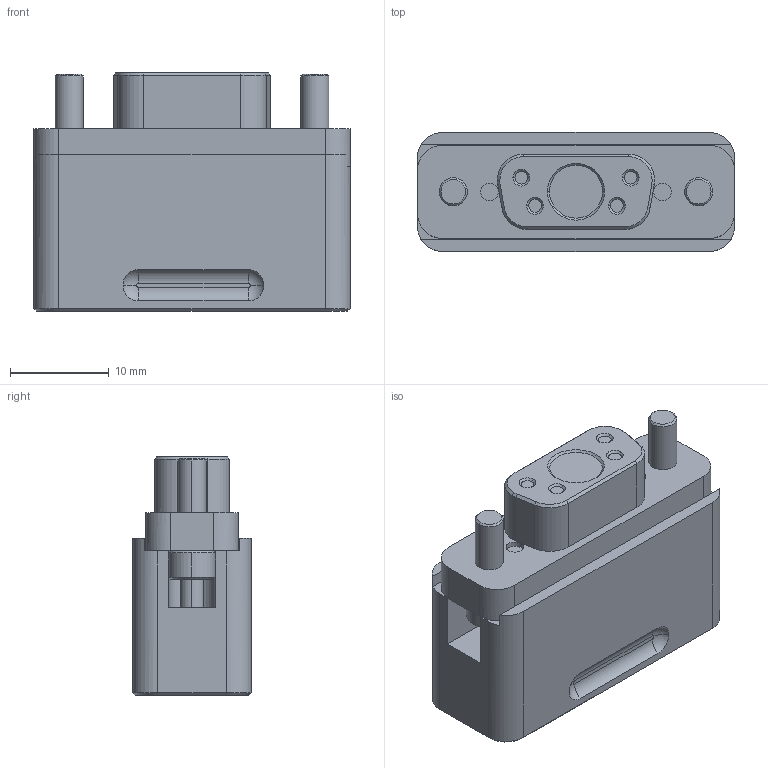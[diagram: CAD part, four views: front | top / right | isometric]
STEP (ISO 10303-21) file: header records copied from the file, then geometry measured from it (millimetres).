
FILE_DESCRIPTION (( 'STEP AP203' ), '1' );
FILE_NAME ('100910.stp', '2020-07-21T22:59:56', ( '' ), ( '' ), 'SwSTEP 2.0', 'SolidWorks 2012', '' );
FILE_SCHEMA (( 'CONFIG_CONTROL_DESIGN' ));
Length unit declared in the file: inch
Products named in the file (1): 100910
Bounding box: 32.13 x 12.06 x 24.13 mm (x, y, z)
Volume: 7129.9 mm3; surface area: 3346.4 mm2
Topology: 1 solids, 1 shells, 233 faces, 580 edges, 370 vertices
Faces by surface type: plane 99, cylinder 61, cone 53, bspline 12, torus 8
Entity records: 7357 total; most frequent: CARTESIAN_POINT 1652, DIRECTION 1222, ORIENTED_EDGE 1160, EDGE_CURVE 580, AXIS2_PLACEMENT_3D 468, VERTEX_POINT 370, VECTOR 286, LINE 286
